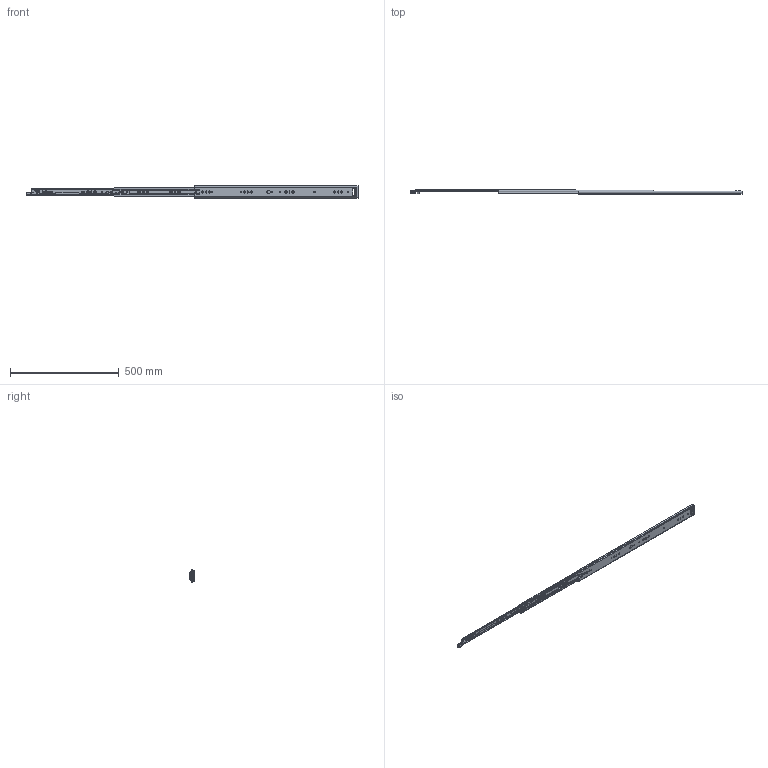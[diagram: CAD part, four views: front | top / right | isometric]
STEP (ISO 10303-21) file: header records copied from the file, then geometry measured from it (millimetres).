
FILE_DESCRIPTION((''),'2;1');
FILE_NAME('KP-57-01ZUZHUANGTU-30_ASM','2023-03-30T',('jishu015'),(''),'PRO/ENGINEER BY PARAMETRIC TECHNOLOGY CORPORATION, 2010280','PRO/ENGINEER BY PARAMETRIC TECHNOLOGY CORPORATION, 2010280','');
FILE_SCHEMA(('CONFIG_CONTROL_DESIGN'));
Products named in the file (22): KP-57-01WEIKE-18___________; 1057WEIJIAO___________; WAIKE__________ASM; KP-57-01ZHONGGUI-18___________; ZHONGGUIPEIJIAN-11_________; ZHONGGUISUOKOU-11_________; KP-57-01ZHONGGUI-18____________ASM; 1057XIAOZHUJIA___________; 1057-5-6GANZHU___________; 1057XIAOZHUJIA-14GE____________ASM; KP-57-01NEIGUI-18___________; PJ-57-08_________; DIAOPIAN-11_________; 50XINSUOKOU-1_________; TANHUANG_________; 1053-3SBANJI122_______; JIAO11_______; KP-57-01NEIGUI-18____________ASM; 1053ZHUTIAO-175_______________; 53-5-6GANZHU_______________; 1053ZHUTIAO-175MM__________ASM; KP-57-01ZUZHUANGTU-30_ASM
Assembly tree (85 placements, depth 3):
  KP-57-01ZUZHUANGTU-30_ASM
    WAIKE__________ASM
      KP-57-01WEIKE-18___________
      1057WEIJIAO___________
    KP-57-01ZHONGGUI-18____________ASM
      KP-57-01ZHONGGUI-18___________
      ZHONGGUIPEIJIAN-11_________
      ZHONGGUISUOKOU-11_________
    1057XIAOZHUJIA-14GE____________ASM
      1057XIAOZHUJIA___________
      1057-5-6GANZHU___________  x52
    KP-57-01NEIGUI-18____________ASM
      KP-57-01NEIGUI-18___________
      PJ-57-08_________
      DIAOPIAN-11_________
      50XINSUOKOU-1_________
      TANHUANG_________
      1053-3SBANJI122_______
      JIAO11_______
    1053ZHUTIAO-175MM__________ASM  x2
      1053ZHUTIAO-175_______________
      53-5-6GANZHU_______________
Bounding box: 1526.92 x 19 x 57.67 mm (x, y, z)
Volume: 327180.3 mm3; surface area: 356606.7 mm2
Topology: 97 solids, 97 shells, 2494 faces, 7175 edges, 4486 vertices
Faces by surface type: cylinder 1073, plane 1016, sphere 167, bspline 114, cone 76, torus 25, extrusion 23
Entity records: 80893 total; most frequent: CARTESIAN_POINT 20018, ORIENTED_EDGE 12886, DIRECTION 12530, EDGE_CURVE 6443, AXIS2_PLACEMENT_3D 4333, VERTEX_POINT 4162, VECTOR 3864, LINE 3841
